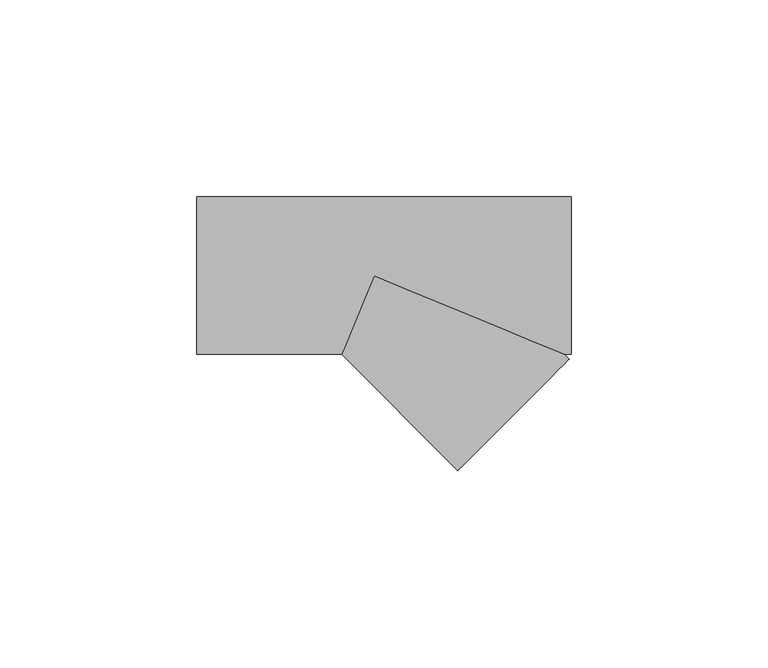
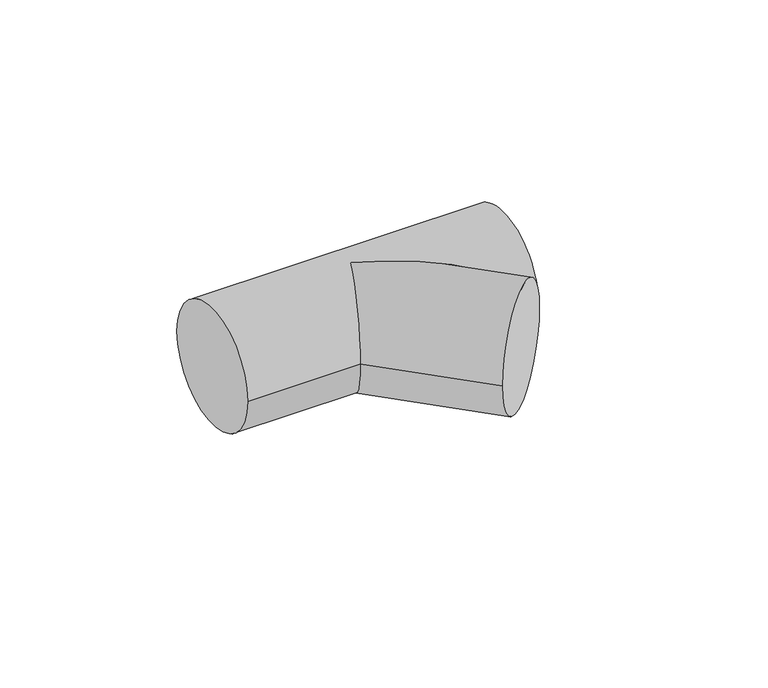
"""IFC4 building model written with IfcOpenShell, lengths in millimetres: pipe fitting geometry, Pipelife - VRD - Trójnik : Pipelife - VRD - Trójnik."""

from ifc_helpers import new_model, si_unit, frame, origin, place, context, project, spatial, circle_curve, ellipse_curve, source, transform, mapped, element, save
from ifc_brep_helpers import plane_surface, cylinder_surface, advanced_brep


def pipe_fitting_175f76b9(model_context):
    return source(origin(), model_context, "Body", "AdvancedBrep", [
        advanced_brep(
        [(-45.0, -20.0, 0.0), (-45.0, 20.0, 0.0), (50.0, -20.0, 0.0), (50.0, 20.0, 0.0), (-8.2842712, -20.0, 0.0), (0.0, 0.0, 20.0), (48.2842712, -20.0, 0.0), (0.0, 0.0, -20.0), (21.2132034, -49.4974747, 0.0), (49.4974747, -21.2132034, 0.0)],
        [
            (0, 1, circle_curve(frame((-45.0, 0.0, 0.0), z_axis=(-1.0, 0.0, 0.0), x_axis=(0.0, 1.0, 0.0)), 20.0)),
            (1, 0, circle_curve(frame((-45.0, 0.0, 0.0), z_axis=(-1.0, 0.0, 0.0), x_axis=(0.0, 1.0, 0.0)), 20.0)),
            (2, 3, circle_curve(frame((50.0, 0.0, 0.0), z_axis=(1.0, 0.0, 0.0), x_axis=(0.0, 1.0, 0.0)), 20.0)),
            (3, 2, circle_curve(frame((50.0, 0.0, 0.0), z_axis=(1.0, 0.0, 0.0), x_axis=(0.0, 1.0, 0.0)), 20.0)),
            (0, 4),
            (4, 5, ellipse_curve(frame((0.0, 0.0, 0.0), z_axis=(-0.9238795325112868, 0.3826834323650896, 0.0), x_axis=(-0.3826834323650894, -0.9238795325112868, 0.0)), 21.647844, 20.0)),
            (5, 6, ellipse_curve(frame((0.0, 0.0, 0.0), z_axis=(0.3826834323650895, 0.9238795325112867, 0.0), x_axis=(-0.9238795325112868, 0.38268343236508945, 0.0)), 52.2625186, 20.0)),
            (6, 2),
            (3, 1),
            (6, 7, ellipse_curve(frame((0.0, 0.0, 0.0), z_axis=(0.3826834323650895, 0.9238795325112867, 0.0), x_axis=(-0.9238795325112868, 0.38268343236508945, 0.0)), 52.2625186, 20.0)),
            (7, 4, ellipse_curve(frame((0.0, 0.0, 0.0), z_axis=(-0.9238795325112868, 0.3826834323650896, 0.0), x_axis=(-0.3826834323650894, -0.9238795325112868, 0.0)), 21.647844, 20.0)),
            (8, 9, circle_curve(frame((35.3553391, -35.3553391, 0.0), z_axis=(0.7071067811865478, -0.7071067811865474, 0.0), x_axis=(0.7071067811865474, 0.7071067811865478, 0.0)), 20.0)),
            (9, 8, circle_curve(frame((35.3553391, -35.3553391, 0.0), z_axis=(0.7071067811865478, -0.7071067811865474, 0.0), x_axis=(0.7071067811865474, 0.7071067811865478, 0.0)), 20.0)),
            (9, 6),
            (4, 8),
        ],
        [
            plane_surface(frame((-45.0, 0.0, 0.0), z_axis=(-1.0, 0.0, 0.0), x_axis=(0.0, 0.0, 1.0))),
            plane_surface(frame((50.0, 0.0, 0.0), z_axis=(1.0, 0.0, 0.0), x_axis=(0.0, 0.0, 1.0))),
            cylinder_surface(frame((-45.0, 0.0, 0.0), z_axis=(-1.0, 0.0, 0.0), x_axis=(0.0, 1.0, 0.0)), 20.0),
            plane_surface(frame((35.3553391, -35.3553391, 0.0), z_axis=(0.7071067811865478, -0.7071067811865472, 0.0), x_axis=(0.0, 0.0, 1.0))),
            cylinder_surface(frame((0.0, 0.0, 0.0), z_axis=(-0.7071067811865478, 0.7071067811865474, 0.0), x_axis=(0.7071067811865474, 0.7071067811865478, 0.0)), 20.0),
        ],
        [
            (0, [[1, 2]]),
            (1, [[3, 4]]),
            (2, [[-1, 5, 6, 7, 8, -4, 9]]),
            (2, [[-2, -9, -3, -8, 10, 11, -5]]),
            (3, [[12, 13]]),
            (4, [[-13, 14, -7, -6, 15]]),
            (4, [[-12, -15, -11, -10, -14]]),
        ],
    ),
    ])


if __name__ == "__main__":
    model = new_model("IFC4")
    model_context = context("Model", 3, world=origin())
    ifc_project = project(units=[si_unit("LENGTHUNIT", "METRE", prefix="MILLI")], contexts=[model_context])
    site = spatial("IfcSite", under=ifc_project)
    building = spatial("IfcBuilding", under=site)
    placement = place(None, origin())
    pipe_fitting_shape = pipe_fitting_175f76b9(model_context)
    element("IfcPipeFitting", 1, ObjectType="Pipelife - VRD - Trójnik : Pipelife - VRD - Trójnik", at=placement, inside=building, context=model_context, shape_type="MappedRepresentation", body=[
        mapped(pipe_fitting_shape, transform((0.0, 0.0, 0.0), x_axis=(1.0, 0.0, 0.0), y_axis=(0.0, 1.0, 0.0), z_axis=(0.0, 0.0, 1.0))),
    ])
    save(model, "model.ifc")
